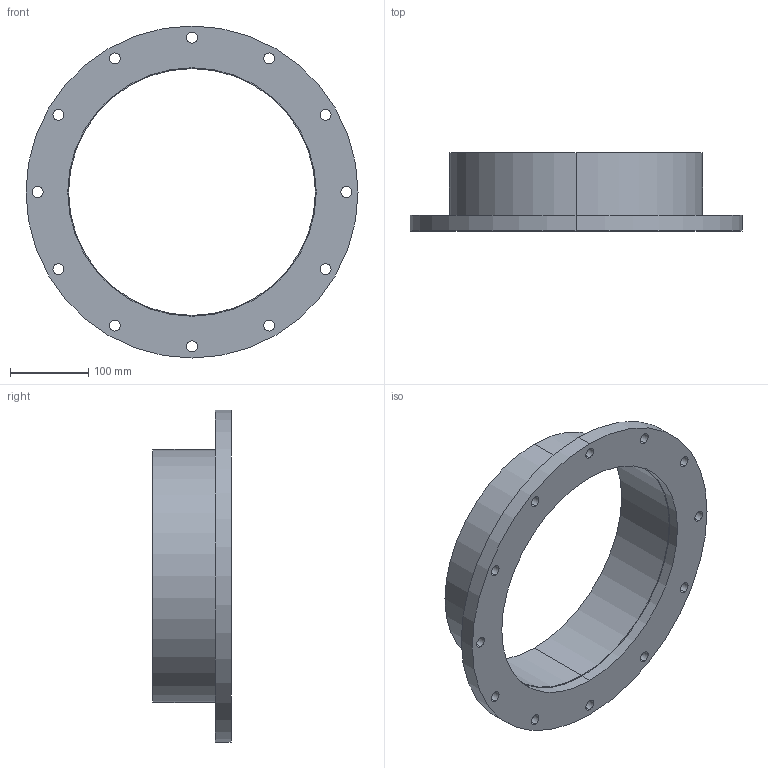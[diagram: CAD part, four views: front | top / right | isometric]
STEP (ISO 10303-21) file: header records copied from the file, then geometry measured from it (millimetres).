
FILE_DESCRIPTION (( 'STEP AP214' ), '1' );
FILE_NAME ('W5KR320.STEP', '2021-09-21T07:09:05', ( '' ), ( '' ), 'SwSTEP 2.0', 'SolidWorks 2020', '' );
FILE_SCHEMA (( 'AUTOMOTIVE_DESIGN' ));
Length unit declared in the file: millimetre
Products named in the file (1): W5KR320
Bounding box: 425 x 100 x 425 mm (x, y, z)
Volume: 1539025.9 mm3; surface area: 359340.1 mm2
Topology: 2 solids, 2 shells, 39 faces, 102 edges, 68 vertices
Faces by surface type: cylinder 34, plane 5
Entity records: 1343 total; most frequent: DIRECTION 250, CARTESIAN_POINT 210, ORIENTED_EDGE 204, AXIS2_PLACEMENT_3D 108, EDGE_CURVE 102, VERTEX_POINT 68, CIRCLE 68, EDGE_LOOP 68
